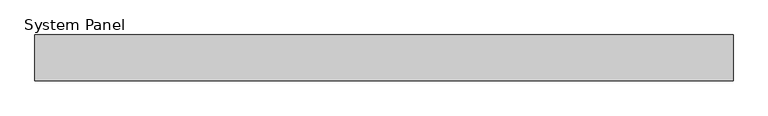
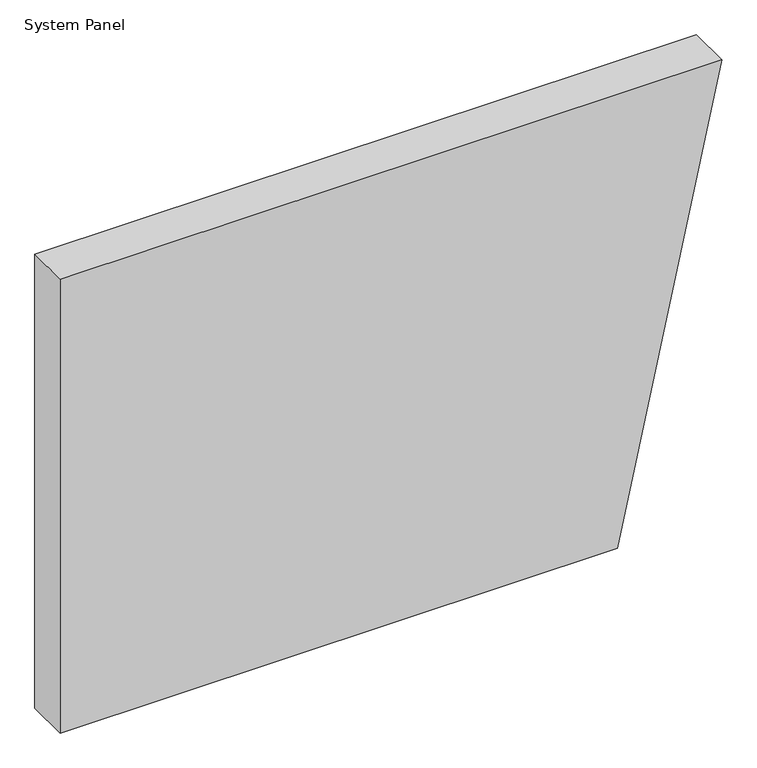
"""IFC4 building model written with IfcOpenShell, lengths in millimetres: plate geometry, System Panel : Inspire 100mm Horizontal - Plain RHEA-PIR."""

from ifc_helpers import new_model, si_unit, frame, origin, place, context, project, spatial, polyline, outline, extrude, source, transform, mapped, element, save


def system_panel_d2bda2eb(model_context):
    return source(origin(), model_context, "Body", "SweptSolid", [
        extrude(outline(polyline([(0.0, -758.698535), (0.0, 519.5661783), (1100.0, 758.698535), (1100.0, -758.698535), (0.0, -758.698535)])), frame((0.0, -100.0, 0.0), z_axis=(0.0, 1.0, 0.0), x_axis=(0.0, 0.0, 1.0)), (0.0, 0.0, 1.0), 100.0),
    ])


if __name__ == "__main__":
    model = new_model("IFC4")
    model_context = context("Model", 3, world=origin())
    ifc_project = project(units=[si_unit("LENGTHUNIT", "METRE", prefix="MILLI")], contexts=[model_context])
    site = spatial("IfcSite", under=ifc_project)
    building = spatial("IfcBuilding", under=site)
    placement = place(None, origin())
    system_panel_shape = system_panel_d2bda2eb(model_context)
    element("IfcPlate", 1, ObjectType="System Panel : Inspire 100mm Horizontal - Plain RHEA-PIR", at=placement, inside=building, context=model_context, shape_type="MappedRepresentation", body=[
        mapped(system_panel_shape, transform((0.0, 0.0, 0.0), x_axis=(1.0, 0.0, 0.0), y_axis=(0.0, 1.0, 0.0), z_axis=(0.0, 0.0, 1.0))),
    ])
    save(model, "model.ifc")
